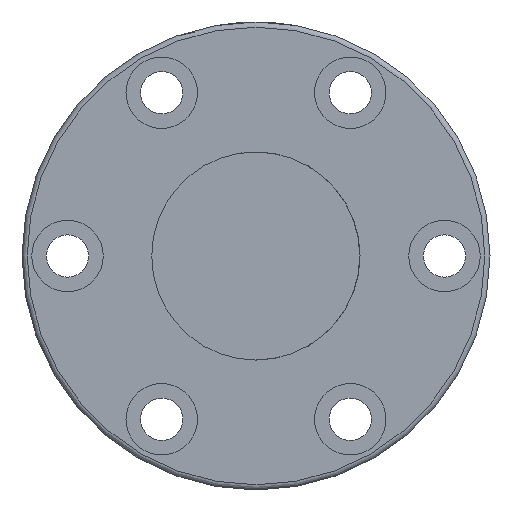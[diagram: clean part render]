
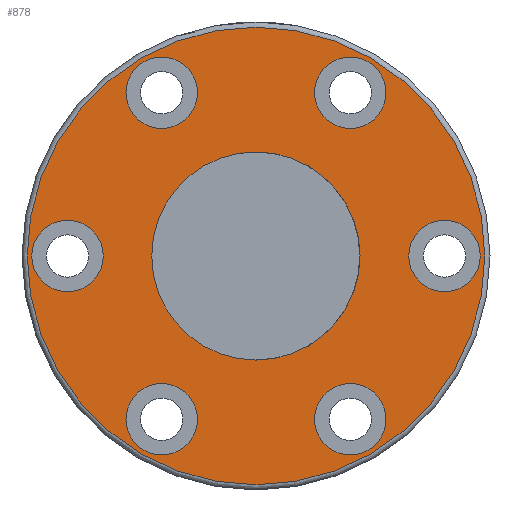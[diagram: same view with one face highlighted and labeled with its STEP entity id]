
A CAD part, front view. The second image highlights one B-rep face of the part: STEP entity #878.
In plain terms, the highlighted planar face has unit normal (0, -1, 0).
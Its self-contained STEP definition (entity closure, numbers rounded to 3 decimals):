
#4 = VERTEX_POINT ( 'NONE', #270 ) ;
#10 = EDGE_CURVE ( 'NONE', #75, #75, #332, .T. ) ;
#15 = DIRECTION ( 'NONE',  ( -1., 0., 0. ) ) ;
#20 = CARTESIAN_POINT ( 'NONE',  ( 14.539, -25.961, 25.115 ) ) ;
#21 = ORIENTED_EDGE ( 'NONE', *, *, #773, .T. ) ;
#51 = EDGE_CURVE ( 'NONE', #261, #261, #644, .T. ) ;
#61 = FACE_BOUND ( 'NONE', #1005, .T. ) ;
#71 = DIRECTION ( 'NONE',  ( 0., 0., 1. ) ) ;
#75 = VERTEX_POINT ( 'NONE', #871 ) ;
#86 = AXIS2_PLACEMENT_3D ( 'NONE', #663, #423, #71 ) ;
#95 = CIRCLE ( 'NONE', #394, 5.5 ) ;
#132 = DIRECTION ( 'NONE',  ( 0., 0., 1. ) ) ;
#142 = CIRCLE ( 'NONE', #251, 5.5 ) ;
#150 = AXIS2_PLACEMENT_3D ( 'NONE', #206, #1068, #724 ) ;
#152 = EDGE_CURVE ( 'NONE', #704, #704, #1087, .T. ) ;
#157 = CARTESIAN_POINT ( 'NONE',  ( 0.039, -25.961, 0. ) ) ;
#177 = AXIS2_PLACEMENT_3D ( 'NONE', #157, #857, #934 ) ;
#206 = CARTESIAN_POINT ( 'NONE',  ( -14.461, -25.961, 25.115 ) ) ;
#231 = DIRECTION ( 'NONE',  ( 0., -1., 0. ) ) ;
#236 = CIRCLE ( 'NONE', #874, 35.2 ) ;
#243 = FACE_BOUND ( 'NONE', #1071, .T. ) ;
#251 = AXIS2_PLACEMENT_3D ( 'NONE', #900, #1001, #580 ) ;
#261 = VERTEX_POINT ( 'NONE', #786 ) ;
#270 = CARTESIAN_POINT ( 'NONE',  ( -14.461, -25.961, -19.615 ) ) ;
#272 = ORIENTED_EDGE ( 'NONE', *, *, #152, .T. ) ;
#273 = EDGE_LOOP ( 'NONE', ( #1013 ) ) ;
#329 = DIRECTION ( 'NONE',  ( 0., 0., 1. ) ) ;
#332 = CIRCLE ( 'NONE', #991, 5.5 ) ;
#336 = VERTEX_POINT ( 'NONE', #950 ) ;
#341 = EDGE_LOOP ( 'NONE', ( #272 ) ) ;
#345 = CARTESIAN_POINT ( 'NONE',  ( 0.039, -25.961, 35.2 ) ) ;
#359 = EDGE_LOOP ( 'NONE', ( #474 ) ) ;
#367 = EDGE_CURVE ( 'NONE', #336, #336, #142, .T. ) ;
#394 = AXIS2_PLACEMENT_3D ( 'NONE', #765, #1114, #329 ) ;
#423 = DIRECTION ( 'NONE',  ( 0., 1., 0. ) ) ;
#434 = EDGE_LOOP ( 'NONE', ( #882 ) ) ;
#439 = VERTEX_POINT ( 'NONE', #612 ) ;
#448 = CARTESIAN_POINT ( 'NONE',  ( 29.039, -25.961, 5.5 ) ) ;
#453 = CARTESIAN_POINT ( 'NONE',  ( 0.039, -25.961, 0. ) ) ;
#474 = ORIENTED_EDGE ( 'NONE', *, *, #957, .T. ) ;
#479 = CIRCLE ( 'NONE', #86, 5.5 ) ;
#494 = CARTESIAN_POINT ( 'NONE',  ( 0.039, -25.961, 0. ) ) ;
#502 = FACE_OUTER_BOUND ( 'NONE', #273, .T. ) ;
#535 = AXIS2_PLACEMENT_3D ( 'NONE', #453, #801, #15 ) ;
#551 = DIRECTION ( 'NONE',  ( 0., 0., 1. ) ) ;
#580 = DIRECTION ( 'NONE',  ( 0., 0., 1. ) ) ;
#585 = FACE_BOUND ( 'NONE', #622, .T. ) ;
#605 = VERTEX_POINT ( 'NONE', #448 ) ;
#612 = CARTESIAN_POINT ( 'NONE',  ( -28.961, -25.961, 5.5 ) ) ;
#614 = ORIENTED_EDGE ( 'NONE', *, *, #10, .T. ) ;
#622 = EDGE_LOOP ( 'NONE', ( #614 ) ) ;
#644 = CIRCLE ( 'NONE', #535, 16. ) ;
#663 = CARTESIAN_POINT ( 'NONE',  ( -14.461, -25.961, -25.115 ) ) ;
#681 = FACE_BOUND ( 'NONE', #983, .T. ) ;
#704 = VERTEX_POINT ( 'NONE', #1047 ) ;
#724 = DIRECTION ( 'NONE',  ( 0., 0., 1. ) ) ;
#765 = CARTESIAN_POINT ( 'NONE',  ( -28.961, -25.961, 0. ) ) ;
#773 = EDGE_CURVE ( 'NONE', #605, #605, #970, .T. ) ;
#786 = CARTESIAN_POINT ( 'NONE',  ( -15.961, -25.961, 0. ) ) ;
#789 = AXIS2_PLACEMENT_3D ( 'NONE', #1092, #1099, #132 ) ;
#790 = VERTEX_POINT ( 'NONE', #345 ) ;
#801 = DIRECTION ( 'NONE',  ( 0., 1., 0. ) ) ;
#850 = PLANE ( 'NONE',  #177 ) ;
#853 = DIRECTION ( 'NONE',  ( 0., 0., 1. ) ) ;
#857 = DIRECTION ( 'NONE',  ( 0., 1., 0. ) ) ;
#871 = CARTESIAN_POINT ( 'NONE',  ( 14.539, -25.961, 30.615 ) ) ;
#874 = AXIS2_PLACEMENT_3D ( 'NONE', #494, #231, #853 ) ;
#875 = EDGE_CURVE ( 'NONE', #439, #439, #95, .T. ) ;
#878 = ADVANCED_FACE ( 'NONE', ( #681, #243, #939, #1017, #585, #940, #502, #61 ), #850, .F. ) ;
#882 = ORIENTED_EDGE ( 'NONE', *, *, #367, .T. ) ;
#886 = DIRECTION ( 'NONE',  ( 0., 1., 0. ) ) ;
#900 = CARTESIAN_POINT ( 'NONE',  ( 14.539, -25.961, -25.115 ) ) ;
#911 = EDGE_CURVE ( 'NONE', #790, #790, #236, .T. ) ;
#934 = DIRECTION ( 'NONE',  ( 1., 0., 0. ) ) ;
#939 = FACE_BOUND ( 'NONE', #434, .T. ) ;
#940 = FACE_BOUND ( 'NONE', #341, .T. ) ;
#950 = CARTESIAN_POINT ( 'NONE',  ( 14.539, -25.961, -19.615 ) ) ;
#957 = EDGE_CURVE ( 'NONE', #4, #4, #479, .T. ) ;
#970 = CIRCLE ( 'NONE', #789, 5.5 ) ;
#983 = EDGE_LOOP ( 'NONE', ( #21 ) ) ;
#991 = AXIS2_PLACEMENT_3D ( 'NONE', #20, #886, #551 ) ;
#1001 = DIRECTION ( 'NONE',  ( 0., 1., 0. ) ) ;
#1005 = EDGE_LOOP ( 'NONE', ( #1057 ) ) ;
#1013 = ORIENTED_EDGE ( 'NONE', *, *, #911, .T. ) ;
#1017 = FACE_BOUND ( 'NONE', #359, .T. ) ;
#1047 = CARTESIAN_POINT ( 'NONE',  ( -14.461, -25.961, 30.615 ) ) ;
#1057 = ORIENTED_EDGE ( 'NONE', *, *, #51, .T. ) ;
#1065 = ORIENTED_EDGE ( 'NONE', *, *, #875, .T. ) ;
#1068 = DIRECTION ( 'NONE',  ( 0., 1., 0. ) ) ;
#1071 = EDGE_LOOP ( 'NONE', ( #1065 ) ) ;
#1087 = CIRCLE ( 'NONE', #150, 5.5 ) ;
#1092 = CARTESIAN_POINT ( 'NONE',  ( 29.039, -25.961, 0. ) ) ;
#1099 = DIRECTION ( 'NONE',  ( 0., 1., 0. ) ) ;
#1114 = DIRECTION ( 'NONE',  ( 0., 1., 0. ) ) ;
